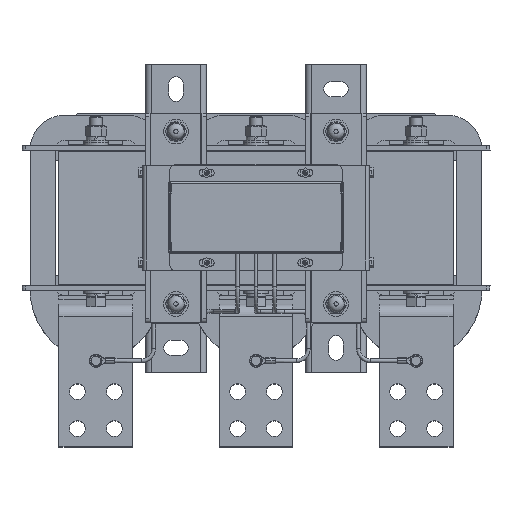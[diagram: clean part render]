
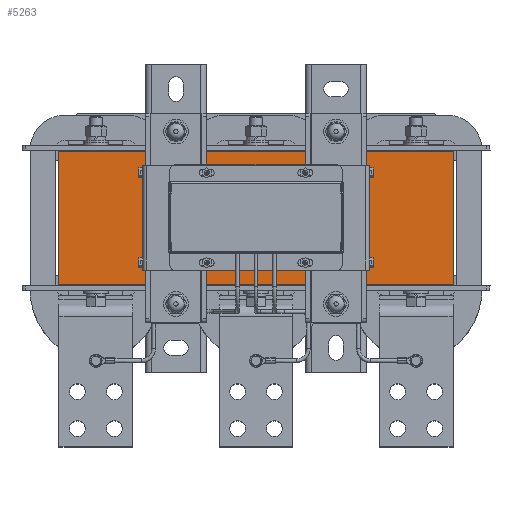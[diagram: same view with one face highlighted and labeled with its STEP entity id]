
A CAD part, top view. The second image highlights one B-rep face of the part: STEP entity #5263.
In plain terms, the highlighted planar face has unit normal (0, 0, 1).
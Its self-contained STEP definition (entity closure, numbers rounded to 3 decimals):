
#5263=ADVANCED_FACE('',(#20516),#20518,.T.);
#20516=FACE_BOUND('',#20517,.T.);
#20517=EDGE_LOOP('',(#37073,#37074,#37075,#37076));
#20518=PLANE('',#20519);
#20519=AXIS2_PLACEMENT_3D('',#20520,#20521,#20522);
#20520=CARTESIAN_POINT('',(-102.5,-81.,347.));
#20521=DIRECTION('',(0.,0.,1.));
#20522=DIRECTION('',(1.,0.,0.));
#37073=ORIENTED_EDGE('',*,*,#43745,.F.);
#37074=ORIENTED_EDGE('',*,*,#43776,.T.);
#37075=ORIENTED_EDGE('',*,*,#43777,.T.);
#37076=ORIENTED_EDGE('',*,*,#43773,.F.);
#43745=EDGE_CURVE('',#48026,#48027,#48028,.T.);
#43773=EDGE_CURVE('',#48027,#48074,#48075,.T.);
#43776=EDGE_CURVE('',#48026,#48079,#48080,.T.);
#43777=EDGE_CURVE('',#48079,#48074,#48081,.T.);
#48026=VERTEX_POINT('',#57929);
#48027=VERTEX_POINT('',#57930);
#48028=LINE('',#57931,#57932);
#48074=VERTEX_POINT('',#58033);
#48075=LINE('',#58034,#58035);
#48079=VERTEX_POINT('',#58044);
#48080=LINE('',#58045,#58046);
#48081=LINE('',#58048,#58049);
#57929=CARTESIAN_POINT('',(-117.5,-81.,347.));
#57930=CARTESIAN_POINT('',(202.5,-81.,347.));
#57931=CARTESIAN_POINT('',(-117.5,-81.,347.));
#57932=VECTOR('',#57933,1.);
#57933=DIRECTION('',(1.,0.,0.));
#58033=CARTESIAN_POINT('',(202.5,-189.,347.));
#58034=CARTESIAN_POINT('',(202.5,-81.,347.));
#58035=VECTOR('',#58036,1.);
#58036=DIRECTION('',(0.,-1.,0.));
#58044=CARTESIAN_POINT('',(-117.5,-189.,347.));
#58045=CARTESIAN_POINT('',(-117.5,-81.,347.));
#58046=VECTOR('',#58047,1.);
#58047=DIRECTION('',(0.,-1.,0.));
#58048=CARTESIAN_POINT('',(-117.5,-189.,347.));
#58049=VECTOR('',#58050,1.);
#58050=DIRECTION('',(1.,0.,0.));
